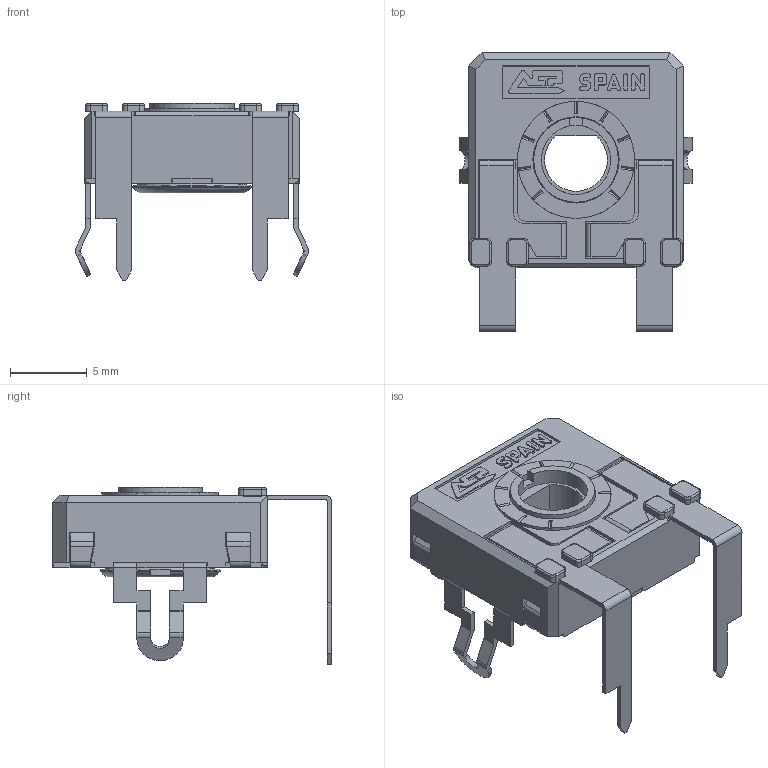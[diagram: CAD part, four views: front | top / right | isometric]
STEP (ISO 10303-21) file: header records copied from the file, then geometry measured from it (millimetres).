
FILE_DESCRIPTION(/* description */ (''),/* implementation_level */ '2;1');
FILE_NAME(/* name */ '\\SERVERACP\intercambio\Ignacio Santa Cecilia\Nueva WEB 2025\CA14 - CE14\CA14DVD11.stp',/* time_stamp */ '2025-06-06T09:53:36+02:00',/* author */ ('CEM'),/* organization */ (''),/* preprocessor_version */ 'ST-DEVELOPER v17',/* originating_system */ 'Autodesk Inventor 2018',/* authorisation */ '');
FILE_SCHEMA (('AUTOMOTIVE_DESIGN { 1 0 10303 214 3 1 1 }'));
Length unit declared in the file: millimetre
Products named in the file (1): CARCASA CA14 PGA
Bounding box: 15.16 x 18.15 x 11.5 mm (x, y, z)
Volume: 543.5 mm3; surface area: 1587.9 mm2
Topology: 1 solids, 1 shells, 720 faces, 2045 edges, 1317 vertices
Faces by surface type: plane 525, cylinder 158, torus 23, bspline 8, cone 6
Full cylindrical faces by diameter (mm): 4.5 x1, 5.5 x1, 5.6 x1, 5.752 x1, 6.8 x1, 7.6 x1
Entity records: 23643 total; most frequent: CARTESIAN_POINT 4380, ORIENTED_EDGE 4090, DIRECTION 3831, EDGE_CURVE 2045, LINE 1595, VECTOR 1595, VERTEX_POINT 1317, AXIS2_PLACEMENT_3D 1118
